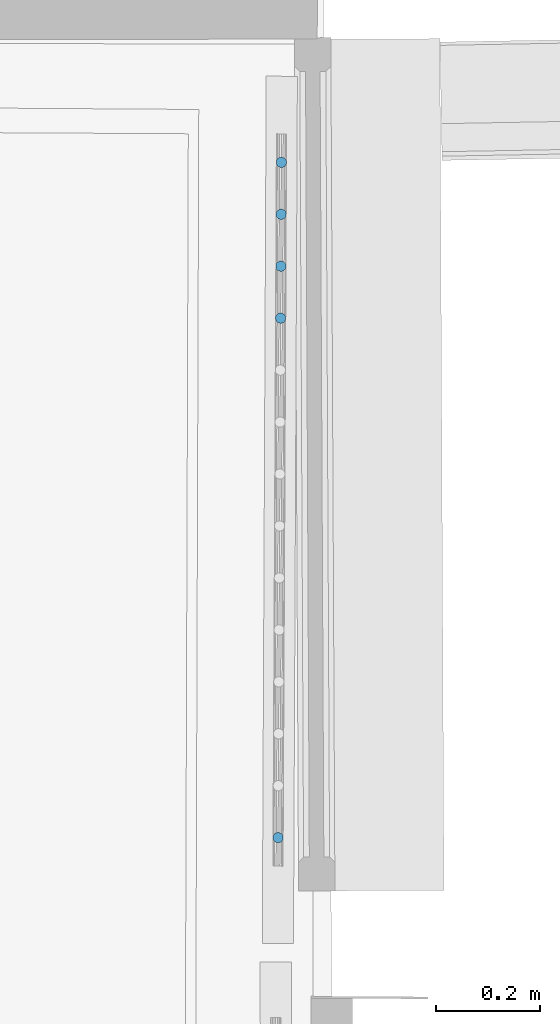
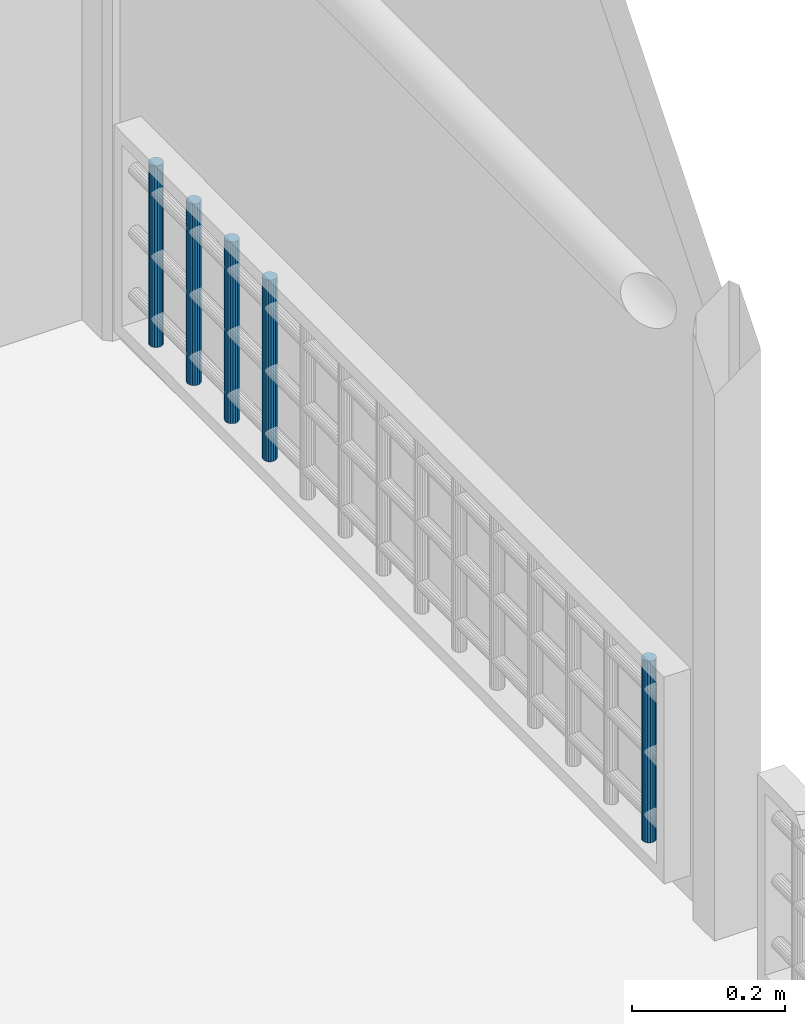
# One storey, part 37 of 72: 5 members, 1 element without a shape of its own.
"""IFC2X3 building model written with IfcOpenShell, lengths in centimetres."""

from ifc_helpers import new_model, entity, si_unit, converted_unit, direction, frame, origin, origin_with_axes, place, context, subcontext, project, spatial, faceted_brep, material, type_object, element, aggregate, save


model = new_model("IFC2X3")

# Units and contexts
model_context = context("Model", 3, precision=0.0001, world=origin(), true_north=direction((0.225632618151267, 0.974212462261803, 0.0)))
body_context = subcontext(model_context, "Body", "Model", "MODEL_VIEW")
ifc_project = project(units=[si_unit("LENGTHUNIT", "METRE", prefix="CENTI"), si_unit("AREAUNIT", "SQUARE_METRE", prefix="CENTI"), si_unit("VOLUMEUNIT", "CUBIC_METRE", prefix="CENTI"), converted_unit("PLANEANGLEUNIT", "DEGREE", entity("IfcRatioMeasure", 0.0174532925), si_unit("PLANEANGLEUNIT", "RADIAN"), dimensions=[0, 0, 0, 0, 0, 0, 0])], contexts=[model_context])

# Site, building, storey
site_placement = place(None, origin_with_axes())
site = spatial("IfcSite", under=ifc_project, at=site_placement, Name="Default Site", CompositionType="ELEMENT")
building_placement = place(site_placement, origin_with_axes())
building = spatial("IfcBuilding", under=site, at=building_placement, Name="Default Building", CompositionType="ELEMENT")
storey_placement = place(building_placement, frame((0.0, 0.0, 853.910374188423), z_axis=(0.0, 0.0, 1.0), x_axis=(1.0, 0.0, 0.0)))
storey = spatial("IfcBuildingStorey", under=building, at=storey_placement, Name="Niveau 2", CompositionType="ELEMENT", Elevation=853.910374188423)

# Assembly, members
building_element_proxy_type = type_object("IfcBuildingElementProxyType", Name="Type Object", PredefinedType="NOTDEFINED")
assembly_placement = place(storey_placement, frame((1065.78157704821, 135.618268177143, 11.9999999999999), z_axis=(0.0, 0.0, 1.0), x_axis=(-0.00486371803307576, -0.999988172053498, 0.0)))
assembly = element("IfcElementAssembly", 1, at=assembly_placement, inside=storey, type_object=building_element_proxy_type, Name="Panneau 1702025", ObjectType="Precast panel", PredefinedType="USERDEFINED")
ifc_material = material(Name="Aluminium satiné")
member_1_placement = place(assembly_placement, frame((8.43969285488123, 0.342020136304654, 31.0000002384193), z_axis=(0.0, 0.0, 1.0), x_axis=(0.50000056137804, -0.866025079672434, 0.0)))
member_1 = element("IfcMember", 2, at=member_1_placement, material=ifc_material, Name="4294967129", context=body_context, shape_type="Brep", body=[
    faceted_brep([(7.49400541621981e-14, -9.57567358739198e-14, -1.77635683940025e-13), (-0.347296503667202, -1.59594559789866e-13, -1.77635683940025e-13), (-0.673648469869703, -0.118782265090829, -1.77635683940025e-13), (-0.939693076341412, -0.342019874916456, -1.77635683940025e-13), (-1.11334134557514, -0.642787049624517, -1.77635683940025e-13), (-1.1736489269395, -0.984807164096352, -1.77635683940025e-13), (-1.11334184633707, -1.32682746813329, -1.77635683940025e-13), (-0.939693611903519, -1.62759464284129, -1.77635683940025e-13), (-0.673649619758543, -1.85083312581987, -1.77635683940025e-13), (-0.347297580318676, -1.96961516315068, -1.77635683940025e-13), (-1.44918084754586e-06, -1.96961580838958, -1.77635683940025e-13), (0.326350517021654, -1.85083354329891, -1.77635683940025e-13), (0.592395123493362, -1.62759593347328, -1.77635683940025e-13), (0.766043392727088, -1.32682875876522, -1.77635683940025e-13), (0.826350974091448, -0.984808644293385, -1.77635683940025e-13), (0.766043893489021, -0.642788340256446, -1.77635683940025e-13), (0.592396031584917, -0.342020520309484, -1.77635683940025e-13), (0.326351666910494, -0.118782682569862, -1.77635683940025e-13), (0.326351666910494, -0.118782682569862, -29.0000002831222), (0.592396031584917, -0.342020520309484, -29.0000002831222), (0.766043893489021, -0.642788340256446, -29.0000002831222), (0.826350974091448, -0.984808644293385, -29.0000002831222), (0.766043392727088, -1.32682875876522, -29.0000002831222), (0.592395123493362, -1.62759593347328, -29.0000002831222), (0.326350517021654, -1.85083354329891, -29.0000002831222), (-1.44918084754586e-06, -1.96961580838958, -29.0000002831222), (-0.347297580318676, -1.96961516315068, -29.0000002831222), (-0.673649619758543, -1.85083312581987, -29.0000002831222), (-0.939693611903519, -1.62759464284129, -29.0000002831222), (-1.11334184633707, -1.32682746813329, -29.0000002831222), (-1.1736489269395, -0.984807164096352, -29.0000002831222), (-1.11334134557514, -0.642787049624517, -29.0000002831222), (-0.939693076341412, -0.342019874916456, -29.0000002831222), (-0.673648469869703, -0.118782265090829, -29.0000002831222), (-0.347296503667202, -1.59594559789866e-13, -29.0000002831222), (7.49400541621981e-14, -9.57567358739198e-14, -29.0000002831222), (0.59239593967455, -0.342020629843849, -1.77635683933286e-13), (0.592395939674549, -0.34202062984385, -29.0000002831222), (0.326351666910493, -0.118782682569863, -29.0000002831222), (0.766044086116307, -0.6427882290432, -1.77635683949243e-13), (0.766044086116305, -0.6427882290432, -29.0000002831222), (0.592396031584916, -0.342020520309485, -29.0000002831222), (0.826351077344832, -0.984808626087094, -1.77635683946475e-13), (0.82635107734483, -0.984808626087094, -29.0000002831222), (0.766043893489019, -0.642788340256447, -29.0000002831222), (0.766043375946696, -1.32682875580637, -1.77635683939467e-13), (0.766043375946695, -1.32682875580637, -29.0000002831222), (0.826350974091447, -0.984808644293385, -29.0000002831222), (0.326350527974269, -1.85083355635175, -1.77635683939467e-13), (0.32635052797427, -1.85083355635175, -29.0000002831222), (0.592395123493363, -1.62759593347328, -29.0000002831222), (-1.48504030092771e-06, -1.96961570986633, -1.7763568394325e-13), (-1.48504030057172e-06, -1.96961570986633, -29.0000002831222), (-0.347297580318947, -1.96961558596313, -1.7763568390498e-13), (-0.347297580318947, -1.96961558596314, -29.0000002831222), (-0.673649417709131, -1.85083257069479, -1.77635683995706e-13), (-0.673649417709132, -1.85083257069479, -29.0000002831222), (-0.347297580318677, -1.96961516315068, -29.0000002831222), (-0.939693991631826, -1.62759509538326, -1.77635683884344e-13), (-0.939693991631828, -1.62759509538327, -29.0000002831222), (-0.673649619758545, -1.85083312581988, -29.0000002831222), (-1.1133414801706, -1.3268272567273, -1.77635683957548e-13), (-1.1133414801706, -1.3268272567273, -29.0000002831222), (-1.17364903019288, -0.984807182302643, -1.77635683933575e-13), (-1.17364903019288, -0.984807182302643, -29.0000002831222), (-1.11334132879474, -0.642787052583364, -1.77635683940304e-13), (-1.11334132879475, -0.642787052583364, -29.0000002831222), (-0.673648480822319, -0.118782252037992, -1.77635683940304e-13), (-0.673648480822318, -0.118782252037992, -29.0000002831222), (-0.939693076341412, -0.342019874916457, -29.0000002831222), (-0.347296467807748, -9.85234054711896e-08, -1.776356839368e-13), (-0.347296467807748, -9.85234063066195e-08, -29.0000002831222), (-0.673648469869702, -0.11878226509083, -29.0000002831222), (-6.75135635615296e-14, -2.22426842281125e-07, -1.77635683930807e-13), (-6.75135643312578e-14, -2.22426843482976e-07, -29.0000002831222), (-0.347296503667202, -1.60796411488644e-13, -29.0000002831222), (0.326351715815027, -0.11878254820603, -1.77635683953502e-13), (0.326351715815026, -0.118782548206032, -29.0000002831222), (7.40051778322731e-14, -9.83252823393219e-14, -29.0000002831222)], [[[0, 1, 2, 3, 4, 5, 6, 7, 8, 9, 10, 11, 12, 13, 14, 15, 16, 17]], [[18, 19, 20, 21, 22, 23, 24, 25, 26, 27, 28, 29, 30, 31, 32, 33, 34, 35]], [[17, 36, 37, 38]], [[16, 39, 40, 41]], [[15, 42, 43, 44]], [[14, 45, 46, 47]], [[13, 12, 23, 22]], [[12, 48, 49, 50]], [[11, 51, 52, 24]], [[10, 53, 54, 25]], [[9, 55, 56, 57]], [[8, 58, 59, 60]], [[7, 61, 62, 28]], [[6, 63, 64, 29]], [[5, 65, 66, 30]], [[4, 3, 32, 31]], [[3, 67, 68, 69]], [[2, 70, 71, 72]], [[1, 73, 74, 75]], [[0, 76, 77, 78]]]),
])
member_2_placement = place(assembly_placement, frame((18.4396922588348, 0.342020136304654, 31.0000002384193), z_axis=(0.0, 0.0, 1.0), x_axis=(0.49999895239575, -0.86602600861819, 0.0)))
member_2 = element("IfcMember", 3, at=member_2_placement, material=ifc_material, Name="4294967128", context=body_context, shape_type="Brep", body=[
    faceted_brep([(2.38697950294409e-13, -1.60982338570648e-13, -1.72084568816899e-13), (-0.347296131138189, -1.0547118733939e-13, -1.72084568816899e-13), (-0.673647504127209, -0.118782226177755, -1.72084568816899e-13), (-0.939691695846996, -0.342020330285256, -1.72084568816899e-13), (-1.11333977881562, -0.64278847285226, -1.72084568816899e-13), (-1.1736467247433, -0.9848086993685, -1.72084568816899e-13), (-1.11333938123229, -1.32682953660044, -1.72084568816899e-13), (-0.939690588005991, -1.62759638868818, -1.72084568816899e-13), (-0.673645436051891, -1.85083308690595, -1.72084568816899e-13), (-0.347293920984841, -1.96961580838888, -1.72084568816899e-13), (2.21015358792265e-06, -1.96961580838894, -1.72084568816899e-13), (0.326354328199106, -1.85083229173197, -1.72084568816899e-13), (0.592398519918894, -1.62759418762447, -1.72084568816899e-13), (0.766046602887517, -1.32682604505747, -1.72084568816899e-13), (0.826353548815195, -0.984805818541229, -1.72084568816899e-13), (0.766045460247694, -0.642786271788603, -1.72084568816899e-13), (0.592396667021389, -0.342019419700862, -1.72084568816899e-13), (0.326352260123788, -0.118781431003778, -1.72084568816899e-13), (0.326352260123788, -0.118781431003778, -29.0000002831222), (0.592396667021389, -0.342019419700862, -29.0000002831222), (0.766045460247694, -0.642786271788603, -29.0000002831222), (0.826353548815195, -0.984805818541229, -29.0000002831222), (0.766046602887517, -1.32682604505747, -29.0000002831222), (0.592398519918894, -1.62759418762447, -29.0000002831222), (0.326354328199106, -1.85083229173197, -29.0000002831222), (2.21015358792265e-06, -1.96961580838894, -29.0000002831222), (-0.347293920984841, -1.96961580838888, -29.0000002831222), (-0.673645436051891, -1.85083308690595, -29.0000002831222), (-0.939690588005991, -1.62759638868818, -29.0000002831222), (-1.11333938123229, -1.32682953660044, -29.0000002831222), (-1.1736467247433, -0.9848086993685, -29.0000002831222), (-1.11333977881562, -0.64278847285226, -29.0000002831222), (-0.939691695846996, -0.342020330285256, -29.0000002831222), (-0.673647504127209, -0.118782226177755, -29.0000002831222), (-0.347296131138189, -1.0547118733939e-13, -29.0000002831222), (2.38697950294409e-13, -1.60982338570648e-13, -29.0000002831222), (0.592397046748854, -0.342018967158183, -1.7208456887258e-13), (0.592397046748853, -0.342018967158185, -29.0000002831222), (0.326352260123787, -0.11878143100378, -29.0000002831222), (0.766045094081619, -0.642786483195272, -1.72084568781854e-13), (0.766045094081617, -0.642786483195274, -29.0000002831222), (0.592396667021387, -0.342019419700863, -29.0000002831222), (0.826353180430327, -0.984805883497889, -1.72084568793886e-13), (0.826353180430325, -0.984805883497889, -29.0000002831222), (0.766045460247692, -0.642786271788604, -29.0000002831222), (0.766046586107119, -1.32682604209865, -1.72084568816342e-13), (0.766046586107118, -1.32682604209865, -29.0000002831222), (0.826353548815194, -0.984805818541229, -29.0000002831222), (0.592398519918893, -1.62759418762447, -1.72084568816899e-13), (0.592398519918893, -1.62759418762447, -29.0000002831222), (0.326354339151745, -1.85083230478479, -1.72084568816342e-13), (0.326354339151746, -1.85083230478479, -29.0000002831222), (2.01049514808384e-06, -1.96961525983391, -1.72084568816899e-13), (2.01049514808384e-06, -1.96961525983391, -29.0000002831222), (-0.347293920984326, -1.96961623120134, -1.72084568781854e-13), (-0.347293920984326, -1.96961623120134, -29.0000002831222), (-0.673645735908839, -1.85083391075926, -1.72084568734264e-13), (-0.67364573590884, -1.85083391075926, -29.0000002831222), (-0.347293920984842, -1.96961580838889, -29.0000002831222), (-0.939690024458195, -1.62759571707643, -1.72084568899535e-13), (-0.939690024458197, -1.62759571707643, -29.0000002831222), (-0.673645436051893, -1.85083308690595, -29.0000002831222), (-1.11333901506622, -1.32682932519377, -1.72084568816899e-13), (-1.11333901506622, -1.32682932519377, -29.0000002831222), (-1.17364729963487, -0.984808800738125, -1.72084568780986e-13), (-1.17364729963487, -0.984808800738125, -29.0000002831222), (-1.1133393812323, -1.32682953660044, -29.0000002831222), (-1.11333976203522, -0.642788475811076, -1.72084568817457e-13), (-1.11333976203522, -0.642788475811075, -29.0000002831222), (-0.673647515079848, -0.11878221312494, -1.72084568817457e-13), (-0.673647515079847, -0.118782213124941, -29.0000002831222), (-0.939691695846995, -0.342020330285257, -29.0000002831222), (-0.347296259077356, 3.51508569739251e-07, -1.72084568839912e-13), (-0.347296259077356, 3.51508568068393e-07, -29.0000002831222), (-0.673647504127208, -0.118782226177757, -29.0000002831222), (-2.76051096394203e-13, 4.22812298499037e-07, -1.72084568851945e-13), (-2.76051093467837e-13, 4.22812296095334e-07, -29.0000002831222), (-0.347296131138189, -1.07874890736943e-13, -29.0000002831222), (0.326352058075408, -0.118781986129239, -1.72084568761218e-13), (0.326352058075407, -0.118781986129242, -29.0000002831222), (2.37763078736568e-13, -1.63550886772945e-13, -29.0000002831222)], [[[0, 1, 2, 3, 4, 5, 6, 7, 8, 9, 10, 11, 12, 13, 14, 15, 16, 17]], [[18, 19, 20, 21, 22, 23, 24, 25, 26, 27, 28, 29, 30, 31, 32, 33, 34, 35]], [[17, 36, 37, 38]], [[16, 39, 40, 41]], [[15, 42, 43, 44]], [[14, 45, 46, 47]], [[13, 48, 49, 22]], [[12, 50, 51, 23]], [[11, 52, 53, 24]], [[10, 54, 55, 25]], [[9, 56, 57, 58]], [[8, 59, 60, 61]], [[7, 62, 63, 28]], [[6, 64, 65, 66]], [[5, 67, 68, 30]], [[4, 3, 32, 31]], [[3, 69, 70, 71]], [[2, 72, 73, 74]], [[1, 75, 76, 77]], [[0, 78, 79, 80]]]),
])
member_3_placement = place(assembly_placement, frame((28.4396916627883, 0.342020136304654, 31.0000002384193), z_axis=(0.0, 0.0, 1.0), x_axis=(0.499995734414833, -0.866027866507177, 0.0)))
member_3 = element("IfcMember", 4, at=member_3_placement, material=ifc_material, Name="4294967127", context=body_context, shape_type="Brep", body=[
    faceted_brep([(3.3584246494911e-13, -4.44089209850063e-14, -1.72084568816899e-13), (-0.34729538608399, -7.7715611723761e-14, -1.72084568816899e-13), (-0.673647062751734, -0.118784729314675, -1.72084568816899e-13), (-0.939691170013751, -0.342025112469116, -1.72084568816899e-13), (-1.11333739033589, -0.642792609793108, -1.72084568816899e-13), (-1.17364232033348, -0.984811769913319, -1.72084568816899e-13), (-1.11333370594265, -1.32683238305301, -1.72084568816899e-13), (-0.939684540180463, -1.62759988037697, -1.72084568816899e-13), (-0.673639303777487, -1.85083688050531, -1.72084568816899e-13), (-0.347286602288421, -1.96961709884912, -1.72084568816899e-13), (1.02738993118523e-05, -1.96961451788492, -1.72084568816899e-13), (0.326361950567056, -1.85082978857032, -1.72084568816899e-13), (0.592404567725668, -1.62759198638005, -1.72084568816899e-13), (0.766050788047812, -1.32682448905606, -1.72084568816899e-13), (0.826357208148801, -0.98480274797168, -1.72084568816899e-13), (0.766048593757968, -0.642782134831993, -1.72084568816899e-13), (0.592397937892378, -0.342017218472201, -1.72084568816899e-13), (0.326352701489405, -0.118780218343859, -1.72084568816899e-13), (0.326352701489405, -0.118780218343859, -29.0000002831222), (0.592397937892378, -0.342017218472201, -29.0000002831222), (0.766048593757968, -0.642782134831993, -29.0000002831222), (0.826357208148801, -0.98480274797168, -29.0000002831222), (0.766050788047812, -1.32682448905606, -29.0000002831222), (0.592404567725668, -1.62759198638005, -29.0000002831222), (0.326361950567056, -1.85082978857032, -29.0000002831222), (1.02738993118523e-05, -1.96961451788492, -29.0000002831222), (-0.347286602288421, -1.96961709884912, -29.0000002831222), (-0.673639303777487, -1.85083688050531, -29.0000002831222), (-0.939684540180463, -1.62759988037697, -29.0000002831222), (-1.11333370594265, -1.32683238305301, -29.0000002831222), (-1.17364232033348, -0.984811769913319, -29.0000002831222), (-1.11333739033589, -0.642792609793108, -29.0000002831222), (-0.939691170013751, -0.342025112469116, -29.0000002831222), (-0.673647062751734, -0.118784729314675, -29.0000002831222), (-0.34729538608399, -7.7715611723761e-14, -29.0000002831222), (3.3584246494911e-13, -4.44089209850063e-14, -29.0000002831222), (0.592398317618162, -0.342016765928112, -1.72084568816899e-13), (0.592398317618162, -0.342016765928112, -29.0000002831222), (0.766047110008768, -0.642782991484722, -1.72084568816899e-13), (0.766047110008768, -0.642782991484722, -29.0000002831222), (0.826357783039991, -0.984802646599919, -1.72084568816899e-13), (0.826357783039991, -0.984802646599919, -29.0000002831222), (0.766051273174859, -1.32682457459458, -1.72084568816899e-13), (0.766051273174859, -1.32682457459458, -29.0000002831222), (0.592404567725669, -1.62759198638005, -1.72084568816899e-13), (0.592404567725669, -1.62759198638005, -29.0000002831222), (0.326362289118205, -1.85083019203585, -1.72084568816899e-13), (0.326362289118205, -1.85083019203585, -29.0000002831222), (1.00742388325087e-05, -1.96961396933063, -1.72084568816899e-13), (1.00742388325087e-05, -1.96961396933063, -29.0000002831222), (-0.347286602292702, -1.96961623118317, -1.72084568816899e-13), (-0.347286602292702, -1.96961623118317, -29.0000002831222), (-0.67363910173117, -1.8508363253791, -1.72084568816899e-13), (-0.67363910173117, -1.8508363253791, -29.0000002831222), (-0.939684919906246, -1.62760033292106, -1.72084568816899e-13), (-0.939684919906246, -1.62760033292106, -29.0000002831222), (-1.11333445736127, -1.32683281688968, -1.72084568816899e-13), (-1.11333445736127, -1.32683281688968, -29.0000002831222), (-1.17364289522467, -0.98481187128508, -1.72084568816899e-13), (-1.17364289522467, -0.98481187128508, -29.0000002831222), (-1.11333687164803, -0.642792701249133, -1.72084568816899e-13), (-1.11333687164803, -0.642792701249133, -29.0000002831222), (-0.673646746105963, -0.118785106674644, -1.72084568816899e-13), (-0.673646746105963, -0.118785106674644, -29.0000002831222), (-0.347295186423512, -5.48554366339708e-07, -1.72084568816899e-13), (-0.347295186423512, -5.48554366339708e-07, -29.0000002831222), (-8.11622965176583e-12, 1.71329082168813e-06, -1.72084568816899e-13), (-8.11622965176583e-12, 1.71329082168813e-06, -29.0000002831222), (0.326352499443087, -0.118780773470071, -1.72084568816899e-13), (0.326352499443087, -0.118780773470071, -29.0000002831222)], [[[0, 1, 2, 3, 4, 5, 6, 7, 8, 9, 10, 11, 12, 13, 14, 15, 16, 17]], [[18, 19, 20, 21, 22, 23, 24, 25, 26, 27, 28, 29, 30, 31, 32, 33, 34, 35]], [[17, 36, 37, 18]], [[16, 38, 39, 19]], [[15, 40, 41, 20]], [[14, 42, 43, 21]], [[13, 44, 45, 22]], [[12, 46, 47, 23]], [[11, 48, 49, 24]], [[10, 50, 51, 25]], [[9, 52, 53, 26]], [[8, 54, 55, 27]], [[7, 56, 57, 28]], [[6, 58, 59, 29]], [[5, 60, 61, 30]], [[4, 3, 32, 31]], [[3, 62, 63, 32]], [[2, 64, 65, 33]], [[1, 66, 67, 34]], [[0, 68, 69, 35]]]),
])
member_4_placement = place(assembly_placement, frame((38.4396940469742, 0.342020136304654, 31.0000002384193), z_axis=(0.0, 0.0, 1.0), x_axis=(0.500002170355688, -0.866024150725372, 0.0)))
member_4 = element("IfcMember", 5, at=member_4_placement, material=ifc_material, Name="4294967126", context=body_context, shape_type="Brep", body=[
    faceted_brep([(2.24820162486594e-13, -1.99840144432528e-13, -1.49880108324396e-13), (-0.347296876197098, -1.72084568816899e-13, -1.49880108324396e-13), (-0.673649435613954, -0.118782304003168, -1.49880108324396e-13), (-0.93969371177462, -0.342018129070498, -1.49880108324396e-13), (-1.11334365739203, -0.642786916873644, -1.49880108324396e-13), (-1.17365112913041, -0.984805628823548, -1.49880108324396e-13), (-1.11334505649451, -1.32682669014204, -1.49880108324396e-13), (-0.939698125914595, -1.62759547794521, -1.49880108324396e-13), (-0.673653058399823, -1.85083187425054, -1.49880108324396e-13), (-0.347302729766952, -1.96961709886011, -1.49880108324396e-13), (-5.85356962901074e-06, -1.96961709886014, -1.49880108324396e-13), (0.326346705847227, -1.85083479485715, -1.49880108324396e-13), (0.592390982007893, -1.62759896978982, -1.49880108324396e-13), (0.7660409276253, -1.32683018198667, -1.49880108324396e-13), (0.826348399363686, -0.984811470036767, -1.49880108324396e-13), (0.766042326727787, -0.64279040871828, -1.49880108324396e-13), (0.592395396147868, -0.342021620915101, -1.49880108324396e-13), (0.326350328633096, -0.118785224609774, -1.49880108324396e-13), (0.326350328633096, -0.118785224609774, -29.0000002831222), (0.592395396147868, -0.342021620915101, -29.0000002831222), (0.766042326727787, -0.64279040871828, -29.0000002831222), (0.826348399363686, -0.984811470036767, -29.0000002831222), (0.7660409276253, -1.32683018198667, -29.0000002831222), (0.592390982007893, -1.62759896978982, -29.0000002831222), (0.326346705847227, -1.85083479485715, -29.0000002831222), (-5.85356962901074e-06, -1.96961709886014, -29.0000002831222), (-0.347302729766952, -1.96961709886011, -29.0000002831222), (-0.673653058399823, -1.85083187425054, -29.0000002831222), (-0.939698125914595, -1.62759547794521, -29.0000002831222), (-1.11334505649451, -1.32682669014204, -29.0000002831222), (-1.17365112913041, -0.984805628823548, -29.0000002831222), (-1.11334365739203, -0.642786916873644, -29.0000002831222), (-0.93969371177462, -0.342018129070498, -29.0000002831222), (-0.673649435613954, -0.118782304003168, -29.0000002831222), (-0.347296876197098, -1.72084568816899e-13, -29.0000002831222), (2.24820162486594e-13, -1.99840144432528e-13, -29.0000002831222), (0.592393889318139, -0.342023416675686, -1.49880108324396e-13), (0.592393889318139, -0.342023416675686, -29.0000002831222), (0.766043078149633, -0.642789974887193, -1.49880108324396e-13), (0.766043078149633, -0.642789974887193, -29.0000002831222), (0.826348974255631, -0.984811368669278, -1.49880108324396e-13), (0.826348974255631, -0.984811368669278, -29.0000002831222), (0.766040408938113, -1.32683009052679, -1.49880108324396e-13), (0.766040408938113, -1.32683009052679, -29.0000002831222), (0.592390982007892, -1.62759896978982, -1.49880108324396e-13), (0.592390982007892, -1.62759896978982, -29.0000002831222), (0.326347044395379, -1.85083519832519, -1.49880108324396e-13), (0.326347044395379, -1.85083519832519, -29.0000002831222), (-6.05322603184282e-06, -1.96961655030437, -1.49880108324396e-13), (-6.05322603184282e-06, -1.96961655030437, -29.0000002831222), (-0.347302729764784, -1.96961623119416, -1.49880108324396e-13), (-0.347302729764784, -1.96961623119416, -29.0000002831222), (-0.673653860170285, -1.85083407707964, -1.49880108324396e-13), (-0.673653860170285, -1.85083407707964, -29.0000002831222), (-0.939696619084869, -1.62759368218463, -1.49880108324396e-13), (-0.939696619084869, -1.62759368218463, -29.0000002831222), (-1.11334580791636, -1.32682712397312, -1.49880108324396e-13), (-1.11334580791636, -1.32682712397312, -29.0000002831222), (-1.17365170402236, -0.984805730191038, -1.49880108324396e-13), (-1.17365170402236, -0.984805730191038, -29.0000002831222), (-1.11334313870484, -0.642787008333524, -1.49880108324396e-13), (-1.11334313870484, -0.642787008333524, -29.0000002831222), (-0.939693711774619, -0.342018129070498, -1.49880108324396e-13), (-0.939693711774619, -0.342018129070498, -29.0000002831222), (-0.673649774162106, -0.118781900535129, -1.49880108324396e-13), (-0.673649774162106, -0.118781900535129, -29.0000002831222), (-0.347296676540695, -5.48555947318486e-07, -1.49880108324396e-13), (-0.347296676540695, -5.48555947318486e-07, -29.0000002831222), (-1.94290516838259e-12, -8.67666156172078e-07, -1.49880108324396e-13), (-1.94290516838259e-12, -8.67666156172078e-07, -29.0000002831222), (0.32635113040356, -0.118783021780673, -1.49880108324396e-13), (0.32635113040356, -0.118783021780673, -29.0000002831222)], [[[0, 1, 2, 3, 4, 5, 6, 7, 8, 9, 10, 11, 12, 13, 14, 15, 16, 17]], [[18, 19, 20, 21, 22, 23, 24, 25, 26, 27, 28, 29, 30, 31, 32, 33, 34, 35]], [[17, 36, 37, 18]], [[16, 38, 39, 19]], [[15, 40, 41, 20]], [[14, 42, 43, 21]], [[13, 44, 45, 22]], [[12, 46, 47, 23]], [[11, 48, 49, 24]], [[10, 50, 51, 25]], [[9, 52, 53, 26]], [[8, 54, 55, 27]], [[7, 56, 57, 28]], [[6, 58, 59, 29]], [[5, 60, 61, 30]], [[4, 62, 63, 31]], [[3, 64, 65, 32]], [[2, 66, 67, 33]], [[1, 68, 69, 34]], [[0, 70, 71, 35]]]),
])
member_5_placement = place(assembly_placement, frame((138.439691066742, 0.342020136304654, 31.0000002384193), z_axis=(0.0, 0.0, 1.0), x_axis=(0.500008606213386, -0.866020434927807, 0.0)))
member_5 = element("IfcMember", 6, at=member_5_placement, material=ifc_material, Name="4294967116", context=body_context, shape_type="Brep", body=[
    faceted_brep([(2.66453525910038e-13, -4.44089209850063e-14, -3.33066907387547e-13), (-0.347298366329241, -4.44089209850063e-14, -3.33066907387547e-13), (-0.673648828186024, -0.118774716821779, -3.33066907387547e-13), (-0.939693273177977, -0.342005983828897, -3.33066907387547e-13), (-1.1133484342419, -0.642778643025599, -3.33066907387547e-13), (-1.17365695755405, -0.984794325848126, -3.33066907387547e-13), (-1.11335044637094, -1.32681067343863, -3.33066907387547e-13), (-0.939707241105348, -1.62758333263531, -3.33066907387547e-13), (-0.673665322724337, -1.85082428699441, -3.33066907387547e-13), (-0.347314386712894, -1.96960935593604, -3.33066907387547e-13), (-1.60203833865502e-05, -1.96960935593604, -3.33066907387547e-13), (0.326334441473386, -1.85083463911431, -3.33066907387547e-13), (0.592378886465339, -1.62760337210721, -3.33066907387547e-13), (0.766034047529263, -1.32683071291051, -3.33066907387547e-13), (0.82634257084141, -0.98481503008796, -3.33066907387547e-13), (0.766036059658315, -0.642798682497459, -3.33066907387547e-13), (0.59239285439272, -0.342026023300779, -3.33066907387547e-13), (0.326350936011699, -0.118785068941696, -3.33066907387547e-13), (0.326350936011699, -0.118785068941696, -29.0000002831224), (0.59239285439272, -0.342026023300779, -29.0000002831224), (0.766036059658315, -0.642798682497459, -29.0000002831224), (0.82634257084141, -0.98481503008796, -29.0000002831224), (0.766034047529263, -1.32683071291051, -29.0000002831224), (0.592378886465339, -1.62760337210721, -29.0000002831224), (0.326334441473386, -1.85083463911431, -29.0000002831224), (-1.60203833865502e-05, -1.96960935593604, -29.0000002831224), (-0.347314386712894, -1.96960935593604, -29.0000002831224), (-0.673665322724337, -1.85082428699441, -29.0000002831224), (-0.939707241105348, -1.62758333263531, -29.0000002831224), (-1.11335044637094, -1.32681067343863, -29.0000002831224), (-1.17365695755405, -0.984794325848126, -29.0000002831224), (-1.1133484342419, -0.642778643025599, -29.0000002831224), (-0.939693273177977, -0.342005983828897, -29.0000002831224), (-0.673648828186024, -0.118774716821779, -29.0000002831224), (-0.347298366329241, -4.44089209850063e-14, -29.0000002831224), (2.66453525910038e-13, -4.44089209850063e-14, -29.0000002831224), (0.59239323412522, -0.342025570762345, -3.33066907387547e-13), (0.59239323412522, -0.342025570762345, -29.0000002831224), (0.766039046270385, -0.64279695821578, -3.33066907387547e-13), (0.766039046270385, -0.64279695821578, -29.0000002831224), (0.826339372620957, -0.984815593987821, -3.33066907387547e-13), (0.826339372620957, -0.984815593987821, -29.0000002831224), (0.766032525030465, -1.32683044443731, -3.33066907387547e-13), (0.766032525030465, -1.32683044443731, -29.0000002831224), (0.59237888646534, -1.62760337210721, -3.33066907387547e-13), (0.59237888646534, -1.62760337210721, -29.0000002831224), (0.326335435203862, -1.8508358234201, -3.33066907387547e-13), (0.326335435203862, -1.8508358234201, -29.0000002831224), (-1.49096854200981e-05, -1.9696124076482, -3.33066907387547e-13), (-1.49096854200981e-05, -1.9696124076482, -29.0000002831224), (-0.347314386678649, -1.9696059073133, -3.33066907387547e-13), (-0.347314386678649, -1.9696059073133, -29.0000002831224), (-0.673665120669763, -1.85082373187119, -3.33066907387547e-13), (-0.673665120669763, -1.85082373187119, -29.0000002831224), (-0.939707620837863, -1.62758378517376, -3.33066907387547e-13), (-0.939707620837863, -1.62758378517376, -29.0000002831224), (-1.11335343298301, -1.32681239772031, -3.33066907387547e-13), (-1.11335343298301, -1.32681239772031, -29.0000002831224), (-1.17365375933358, -0.984793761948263, -3.33066907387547e-13), (-1.17365375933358, -0.984793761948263, -29.0000002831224), (-1.11334691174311, -0.642778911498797, -3.33066907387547e-13), (-1.11334691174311, -0.642778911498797, -29.0000002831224), (-0.939693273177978, -0.342005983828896, -3.33066907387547e-13), (-0.939693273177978, -0.342005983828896, -29.0000002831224), (-0.673649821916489, -0.118773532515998, -3.33066907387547e-13), (-0.673649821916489, -0.118773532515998, -29.0000002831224), (-0.347299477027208, 3.05171211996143e-06, -3.33066907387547e-13), (-0.347299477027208, 3.05171211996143e-06, -29.0000002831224), (-3.39778734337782e-11, -3.44862278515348e-06, -3.33066907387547e-13), (-3.39778734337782e-11, -3.44862278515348e-06, -29.0000002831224), (0.326350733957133, -0.118785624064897, -3.33066907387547e-13), (0.326350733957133, -0.118785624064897, -29.0000002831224)], [[[0, 1, 2, 3, 4, 5, 6, 7, 8, 9, 10, 11, 12, 13, 14, 15, 16, 17]], [[18, 19, 20, 21, 22, 23, 24, 25, 26, 27, 28, 29, 30, 31, 32, 33, 34, 35]], [[17, 36, 37, 18]], [[16, 38, 39, 19]], [[15, 40, 41, 20]], [[14, 42, 43, 21]], [[13, 44, 45, 22]], [[12, 46, 47, 23]], [[11, 48, 49, 24]], [[10, 50, 51, 25]], [[9, 52, 53, 26]], [[8, 54, 55, 27]], [[7, 56, 57, 28]], [[6, 58, 59, 29]], [[5, 60, 61, 30]], [[4, 62, 63, 31]], [[3, 64, 65, 32]], [[2, 66, 67, 33]], [[1, 68, 69, 34]], [[0, 70, 71, 35]]]),
])
aggregate(assembly, [member_1, member_2, member_3, member_4, member_5])

save(model, "model.ifc")
